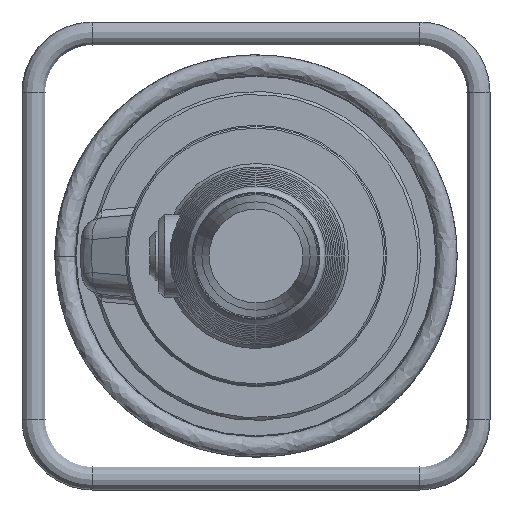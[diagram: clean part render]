
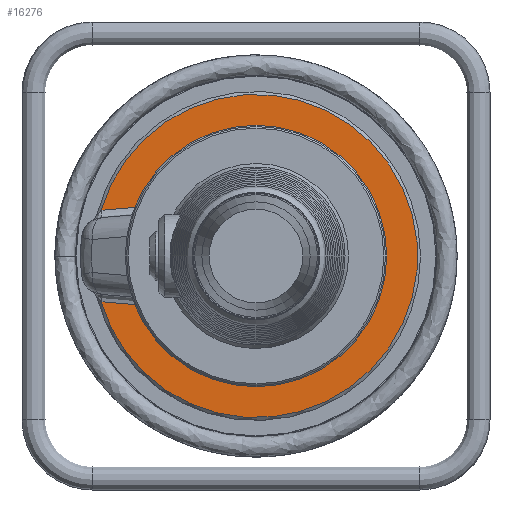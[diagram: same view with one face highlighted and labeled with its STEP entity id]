
A CAD part, left-side view. The second image highlights one B-rep face of the part: STEP entity #16276.
In plain terms, the highlighted planar face has unit normal (-1, 0, 0).
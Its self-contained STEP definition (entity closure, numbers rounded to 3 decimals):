
#935=LINE('',#40560,#1817);
#936=LINE('',#40564,#1818);
#1817=VECTOR('',#20077,40.842);
#1818=VECTOR('',#20080,40.842);
#2510=PLANE('',#17266);
#4541=FACE_OUTER_BOUND('',#5673,.T.);
#5673=EDGE_LOOP('',(#14451,#14452,#14453,#14454));
#6342=CIRCLE('',#17267,110.5);
#6343=CIRCLE('',#17268,74.);
#7901=VERTEX_POINT('',#40558);
#7902=VERTEX_POINT('',#40559);
#7903=VERTEX_POINT('',#40561);
#7904=VERTEX_POINT('',#40563);
#10125=EDGE_CURVE('',#7901,#7902,#935,.T.);
#10126=EDGE_CURVE('',#7903,#7901,#6342,.T.);
#10127=EDGE_CURVE('',#7904,#7903,#936,.T.);
#10128=EDGE_CURVE('',#7904,#7902,#6343,.T.);
#14451=ORIENTED_EDGE('',*,*,#10125,.F.);
#14452=ORIENTED_EDGE('',*,*,#10126,.F.);
#14453=ORIENTED_EDGE('',*,*,#10127,.F.);
#14454=ORIENTED_EDGE('',*,*,#10128,.T.);
#16276=ADVANCED_FACE('',(#4541),#2510,.T.);
#17266=AXIS2_PLACEMENT_3D('',#40557,#20075,#20076);
#17267=AXIS2_PLACEMENT_3D('',#40562,#20078,#20079);
#17268=AXIS2_PLACEMENT_3D('',#40565,#20081,#20082);
#20075=DIRECTION('center_axis',(-1.,0.,0.));
#20076=DIRECTION('ref_axis',(0.,0.,1.));
#20077=DIRECTION('',(0.,-0.996,-0.087));
#20078=DIRECTION('center_axis',(1.,0.,0.));
#20079=DIRECTION('ref_axis',(0.,-1.,0.));
#20080=DIRECTION('',(0.,0.996,-0.087));
#20081=DIRECTION('center_axis',(1.,0.,0.));
#20082=DIRECTION('ref_axis',(0.,-1.,0.));
#40557=CARTESIAN_POINT('Origin',(-20.,-92.25,0.));
#40558=CARTESIAN_POINT('',(-20.,105.991,-31.245));
#40559=CARTESIAN_POINT('',(-20.,65.304,-34.804));
#40560=CARTESIAN_POINT('',(-20.,0.632,-40.462));
#40561=CARTESIAN_POINT('',(-20.,105.991,31.245));
#40562=CARTESIAN_POINT('Origin',(-20.,0.,
0.));
#40563=CARTESIAN_POINT('',(-20.,65.304,34.804));
#40564=CARTESIAN_POINT('',(-20.,0.632,40.462));
#40565=CARTESIAN_POINT('Origin',(-20.,0.,
0.));
